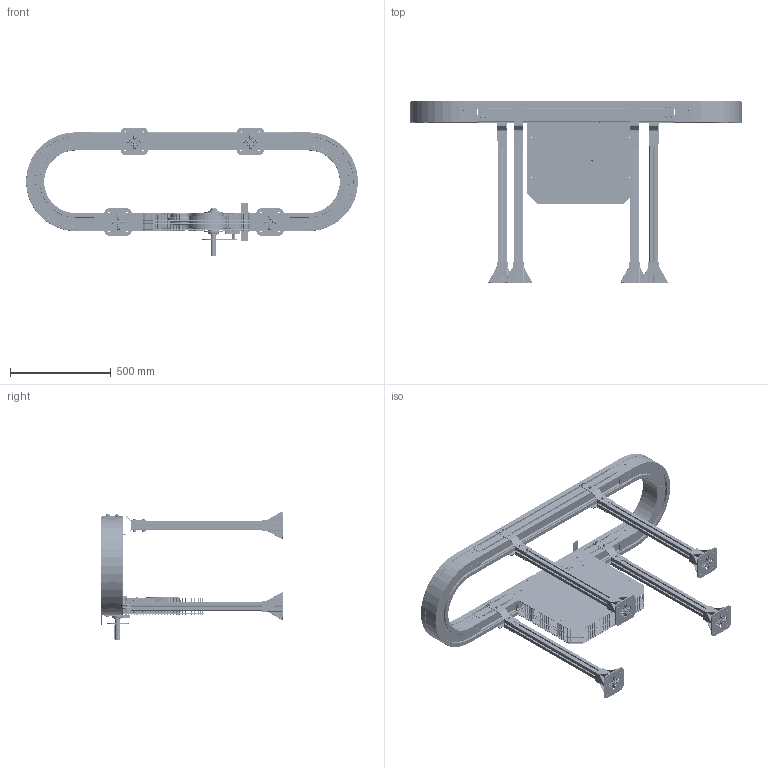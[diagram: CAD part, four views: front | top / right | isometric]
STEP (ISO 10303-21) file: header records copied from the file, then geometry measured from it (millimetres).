
FILE_DESCRIPTION (( 'STEP AP203' ), '1' );
FILE_NAME ('NASTRO_CATENA.step', '2026-04-28T11:20:07', ( 'Utente Windows' ), ( '' ), 'SwSTEP 2.0', 'SolidWorks 2024', '' );
FILE_SCHEMA (( 'CONFIG_CONTROL_DESIGN' ));
Length unit declared in the file: millimetre
Products named in the file (51): 2000.325.607; RUOTE DI TRAINO NS880_NS880T12R25; 084.302.016; 084.302.000 DADI ALUSIC 13x13-1_084.302.008; 2000.325.603; K325_CEN_ANE_49_P_DX; 2000.325.616; 084.808.004; 2000.325.201-1; VITI TSEI UNI 5933_M6x20 UNI 5933; 2000.325.003; K325_5_a<A macchina>; K325_1_Default<A macchina>; 2000.325.601; 084.301.000 VITI ALUSIC1_084.301.003; 2000.325.103; 2000.882.750; 2000.325.440; GAMBE_KP325_Default<A macchina>; K325_2_Default<A macchina>; CHIAVETTE_A 8x7x70 UNI 6604-69; 2000.325.429_Default<A macchina>; SBPF205; RONDELLE UNI 6592_8.4x17 UNI 6592; 2000.325.439_2000.1200.490; 2000.325.455_Default<A macchina>; 2000.001.903; 2000.325.620; NASTRO_CATENA; 084.302.000 DADI ALUSIC 13x13-1_084.302.009; 2000.325.605_Default<A macchina>; 084.301.000 VITI ALUSIC_084.301.002; 2000.325.602; GRANI A PUNTA CONICA UNI 5927 INOX_M8x14 UNI 5927 INOX; 2000.001.011; 2000.001.402; 084.201.012-1; FLANGIA_GAMBE_KP325; 2000.325.606_Default<A macchina>; K325_180°_D_P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
Assembly tree (152 placements, depth 3):
  NASTRO_CATENA
    K325_1_Default<A macchina>
    K325_2_Default<A macchina>
    K325_5_a<A macchina>
    K325_CEN_ANE_49_P_DX
      2000.001.903
      2000.325.103
      084.802.027
      2000.325.201-1  x2
      SBPF205  x2
      RUOTE DI TRAINO NS880_NS880T12R25
      084.808.004
      2000.325.603
      2000.325.608
      2000.001.402  x4
      2000.325.429_Default<A macchina>  x2
      2000.325.604
      2000.325.003
      675582  x2
      2000.325.601  x4
      2000.325.606_Default<A macchina>  x4
      2000.325.602  x2
      2000.325.605_Default<A macchina>  x4
      CHIAVETTE_A 8x7x70 UNI 6604-69
      CHIAVETTE_A 8x7x50 UNI 6604-69
      2000.325.616  x2
      2000.001.011
      2000.325.607
    K325_180°_D_P  x2
      2000.325.439_2000.1200.490
      2000.325.429_Default<A macchina>
      2000.001.402
      2000.325.441
      2000.325.440
      2000.325.455_Default<A macchina>
      VITI TSEI UNI 5933_M8x20 UNI 5933
      VITI TSEI UNI 5933_M6x20 UNI 5933
      084.302.000 DADI ALUSIC 13x13-1_084.302.008
      GRANI A PUNTA CONICA UNI 5927 INOX_M8x14 UNI 5927 INOX
    GAMBE_KP325_Default<A macchina>  x4
    FLANGIA_GAMBE_KP325  x8
      2000.325.620
      084.302.016
      084.301.000 VITI ALUSIC_084.301.002
      084.302.000 DADI ALUSIC 13x13-1_084.302.004
      RONDELLE UNI 6592_8.4x17 UNI 6592
    BASE_GAMBE_KB325  x4
      084.409.002
      RONDELLE UNI 6592_8.4x17 UNI 6592
      084.301.000 VITI ALUSIC1_084.301.003
      084.302.000 DADI ALUSIC 13x13-1_084.302.009
    084.201.012-1  x4
    CATENA_ANELLO_180
    2000.882.750
Bounding box: 1645 x 900.24 x 637 mm (x, y, z)
Volume: 19819167.5 mm3; surface area: 9245618.2 mm2
Topology: 467 solids, 476 shells, 11410 faces, 28209 edges, 18081 vertices
Faces by surface type: plane 5586, cylinder 4190, cone 870, torus 600, bspline 164
Entity records: 119638 total; most frequent: CARTESIAN_POINT 21198, DIRECTION 19911, ORIENTED_EDGE 18082, EDGE_CURVE 9052, AXIS2_PLACEMENT_3D 7295, VERTEX_POINT 5767, VECTOR 5321, LINE 5321
